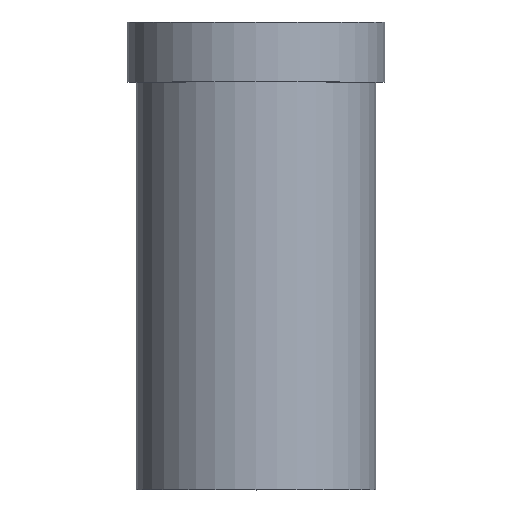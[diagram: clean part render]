
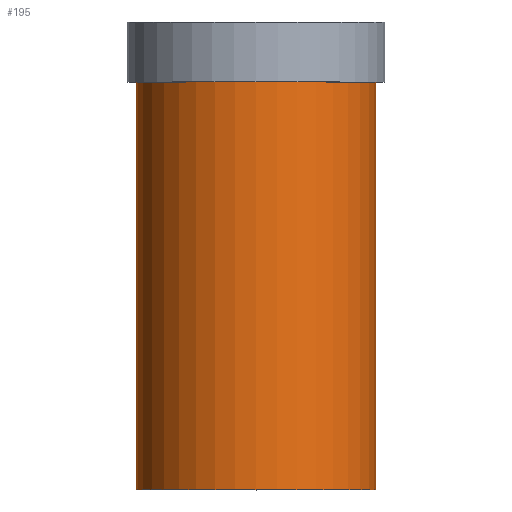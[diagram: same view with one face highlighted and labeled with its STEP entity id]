
A CAD part, top view. The second image highlights one B-rep face of the part: STEP entity #195.
In plain terms, the highlighted cylindrical face has radius 40 mm (diameter 80 mm), a full revolution.
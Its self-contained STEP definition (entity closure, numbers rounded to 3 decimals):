
#32=ORIENTED_EDGE('',*,*,#50,.T.);
#33=ORIENTED_EDGE('',*,*,#49,.F.);
#49=EDGE_CURVE('',#59,#59,#69,.T.);
#50=EDGE_CURVE('',#60,#60,#70,.T.);
#59=VERTEX_POINT('',#280);
#60=VERTEX_POINT('',#283);
#69=CIRCLE('',#213,40.);
#70=CIRCLE('',#215,40.);
#82=EDGE_LOOP('',(#32));
#83=EDGE_LOOP('',(#33));
#102=FACE_BOUND('',#82,.T.);
#103=FACE_BOUND('',#83,.T.);
#117=CYLINDRICAL_SURFACE('',#214,40.);
#195=ADVANCED_FACE('',(#102,#103),#117,.T.);
#213=AXIS2_PLACEMENT_3D('',#279,#241,#242);
#214=AXIS2_PLACEMENT_3D('',#281,#243,#244);
#215=AXIS2_PLACEMENT_3D('',#282,#245,#246);
#241=DIRECTION('',(0.,-1.,0.));
#242=DIRECTION('',(0.,0.,-1.));
#243=DIRECTION('',(0.,-1.,0.));
#244=DIRECTION('',(0.,0.,-1.));
#245=DIRECTION('',(0.,-1.,0.));
#246=DIRECTION('',(0.,0.,-1.));
#279=CARTESIAN_POINT('',(0.,0.,0.));
#280=CARTESIAN_POINT('',(0.,0.,-40.));
#281=CARTESIAN_POINT('',(0.,0.,0.));
#282=CARTESIAN_POINT('',(0.,136.,0.));
#283=CARTESIAN_POINT('',(0.,136.,-40.));
